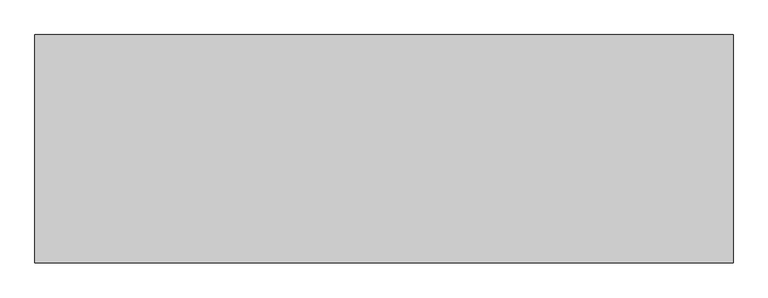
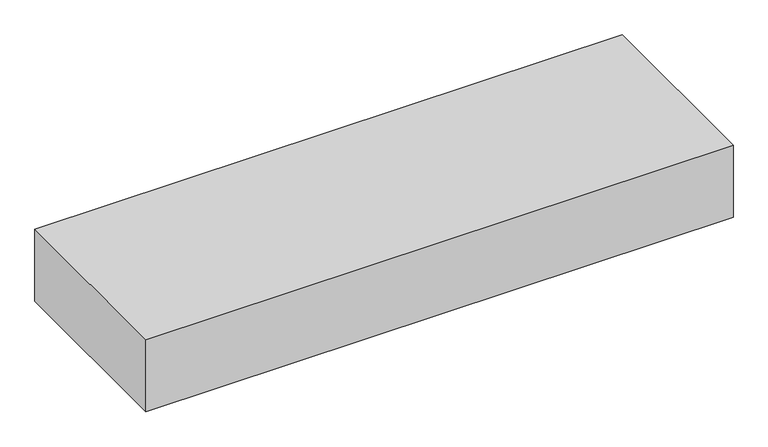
"""IFC4 building model written with IfcOpenShell, lengths in millimetres: proxy geometry, Modelos genéricos 2 : Modelos genéricos 2."""

from ifc_helpers import new_model, si_unit, frame, origin, place, context, project, spatial, polyline, outline, extrude, source, transform, mapped, element, save


def generic_models_c5f9d44d(model_context):
    return source(origin(), model_context, "Body", "SweptSolid", [
        extrude(outline(polyline([(238.4881645, -6233.9118273), (238.4881645, -10013.9118273), (-11321.5118355, -10013.9118273), (-11321.5118355, -6233.9118273), (238.4881645, -6233.9118273)])), frame((0.0, 0.0, -1000.0), z_axis=(0.0, 0.0, 1.0), x_axis=(1.0, 0.0, 0.0)), (0.0, 0.0, 1.0), 1500.0),
    ])


if __name__ == "__main__":
    model = new_model("IFC4")
    model_context = context("Model", 3, world=origin())
    ifc_project = project(units=[si_unit("LENGTHUNIT", "METRE", prefix="MILLI")], contexts=[model_context])
    site = spatial("IfcSite", under=ifc_project)
    building = spatial("IfcBuilding", under=site)
    placement = place(None, origin())
    generic_models_shape = generic_models_c5f9d44d(model_context)
    element("IfcBuildingElementProxy", 1, Name="Modelos genéricos 2 : Modelos genéricos 2", ObjectType="Modelos genéricos 2 : Modelos genéricos 2", at=placement, inside=building, context=model_context, shape_type="MappedRepresentation", body=[
        mapped(generic_models_shape, transform((0.0, 0.0, 0.0), x_axis=(1.0, 0.0, 0.0), y_axis=(0.0, 1.0, 0.0), z_axis=(0.0, 0.0, 1.0))),
    ])
    save(model, "model.ifc")
